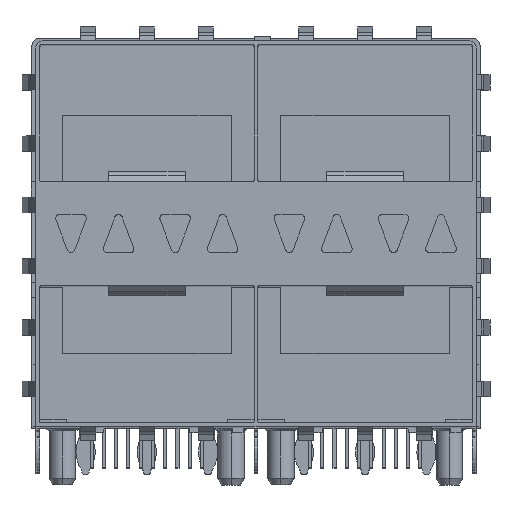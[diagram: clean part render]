
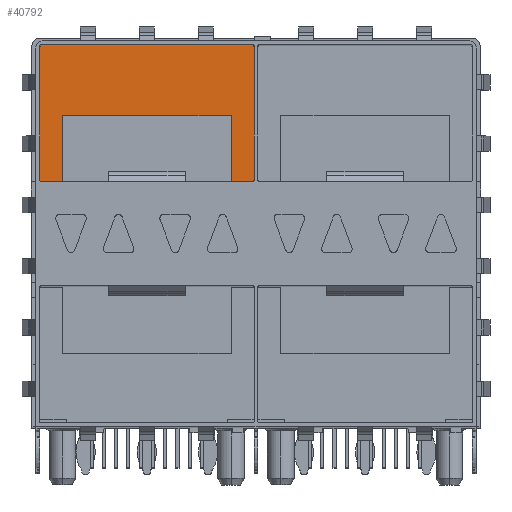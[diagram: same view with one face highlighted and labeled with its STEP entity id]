
A CAD part, top view. The second image highlights one B-rep face of the part: STEP entity #40792.
In plain terms, the highlighted planar face has unit normal (0, 0, 1).
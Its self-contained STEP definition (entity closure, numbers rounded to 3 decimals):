
#115 = CARTESIAN_POINT ( 'NONE',  ( -0.225, 24.95, -48.55 ) ) ;
#374 = AXIS2_PLACEMENT_3D ( 'NONE', #41172, #11972, #5777 ) ;
#1223 = CARTESIAN_POINT ( 'NONE',  ( -1.625, 20.35, -48.55 ) ) ;
#2765 = AXIS2_PLACEMENT_3D ( 'NONE', #10588, #26622, #20474 ) ;
#3212 = ORIENTED_EDGE ( 'NONE', *, *, #38839, .T. ) ;
#3539 = AXIS2_PLACEMENT_3D ( 'NONE', #29198, #32173, #6663 ) ;
#4498 = CARTESIAN_POINT ( 'NONE',  ( -0.225, 24.95, -48.55 ) ) ;
#5258 = CARTESIAN_POINT ( 'NONE',  ( -0.225, 16., -48.55 ) ) ;
#5658 = CARTESIAN_POINT ( 'NONE',  ( -12.625, 16., -48.55 ) ) ;
#5702 = CARTESIAN_POINT ( 'NONE',  ( -14.025, 24.85, -48.55 ) ) ;
#5777 = DIRECTION ( 'NONE',  ( -1., 0., 0. ) ) ;
#6419 = LINE ( 'NONE', #4498, #24650 ) ;
#6663 = DIRECTION ( 'NONE',  ( -1., 0., 0. ) ) ;
#6952 = LINE ( 'NONE', #5658, #11923 ) ;
#7019 = EDGE_CURVE ( 'NONE', #10995, #41357, #20001, .T. ) ;
#7454 = EDGE_CURVE ( 'NONE', #11150, #35903, #36485, .T. ) ;
#7461 = DIRECTION ( 'NONE',  ( 1., 0., 0. ) ) ;
#7635 = VERTEX_POINT ( 'NONE', #34529 ) ;
#7976 = LINE ( 'NONE', #13035, #17072 ) ;
#10338 = DIRECTION ( 'NONE',  ( 0., -1., 0. ) ) ;
#10588 = CARTESIAN_POINT ( 'NONE',  ( -14.375, 25.2, -48.55 ) ) ;
#10771 = ORIENTED_EDGE ( 'NONE', *, *, #7019, .T. ) ;
#10995 = VERTEX_POINT ( 'NONE', #25448 ) ;
#11150 = VERTEX_POINT ( 'NONE', #36994 ) ;
#11578 = FACE_OUTER_BOUND ( 'NONE', #27976, .T. ) ;
#11807 = ORIENTED_EDGE ( 'NONE', *, *, #27276, .T. ) ;
#11860 = EDGE_CURVE ( 'NONE', #32904, #14778, #21702, .T. ) ;
#11923 = VECTOR ( 'NONE', #28333, 1000. ) ;
#11972 = DIRECTION ( 'NONE',  ( 0., 0., 1. ) ) ;
#12399 = EDGE_CURVE ( 'NONE', #35903, #32904, #7976, .T. ) ;
#13035 = CARTESIAN_POINT ( 'NONE',  ( -1.625, 16., -48.55 ) ) ;
#14778 = VERTEX_POINT ( 'NONE', #18092 ) ;
#14999 = LINE ( 'NONE', #36609, #37904 ) ;
#15048 = VERTEX_POINT ( 'NONE', #30991 ) ;
#15125 = VECTOR ( 'NONE', #40067, 1000. ) ;
#15161 = DIRECTION ( 'NONE',  ( -1., 0., 0. ) ) ;
#15274 = DIRECTION ( 'NONE',  ( 0., 0., 1. ) ) ;
#16243 = VERTEX_POINT ( 'NONE', #18076 ) ;
#17072 = VECTOR ( 'NONE', #32634, 1000. ) ;
#17291 = CARTESIAN_POINT ( 'NONE',  ( -0.125, 16.1, -48.55 ) ) ;
#18010 = VECTOR ( 'NONE', #40893, 1000. ) ;
#18076 = CARTESIAN_POINT ( 'NONE',  ( -14.125, 24.85, -48.55 ) ) ;
#18092 = CARTESIAN_POINT ( 'NONE',  ( -0.125, 16.1, -48.55 ) ) ;
#18487 = ORIENTED_EDGE ( 'NONE', *, *, #37760, .T. ) ;
#18920 = ORIENTED_EDGE ( 'NONE', *, *, #39039, .T. ) ;
#19054 = ORIENTED_EDGE ( 'NONE', *, *, #12399, .T. ) ;
#20001 = CIRCLE ( 'NONE', #374, 0.1 ) ;
#20022 = CARTESIAN_POINT ( 'NONE',  ( -1.625, 16., -48.55 ) ) ;
#20453 = ORIENTED_EDGE ( 'NONE', *, *, #7454, .T. ) ;
#20474 = DIRECTION ( 'NONE',  ( -1., 0., 0. ) ) ;
#21688 = VERTEX_POINT ( 'NONE', #29223 ) ;
#21702 = CIRCLE ( 'NONE', #40268, 0.1 ) ;
#21950 = ORIENTED_EDGE ( 'NONE', *, *, #38435, .T. ) ;
#21988 = DIRECTION ( 'NONE',  ( 0., 0., 1. ) ) ;
#23542 = ORIENTED_EDGE ( 'NONE', *, *, #11860, .T. ) ;
#24480 = VERTEX_POINT ( 'NONE', #29433 ) ;
#24650 = VECTOR ( 'NONE', #40291, 1000. ) ;
#24710 = ORIENTED_EDGE ( 'NONE', *, *, #26195, .T. ) ;
#25448 = CARTESIAN_POINT ( 'NONE',  ( -14.125, 16.1, -48.55 ) ) ;
#26195 = EDGE_CURVE ( 'NONE', #14778, #7635, #32447, .T. ) ;
#26622 = DIRECTION ( 'NONE',  ( 0., 0., -1. ) ) ;
#27276 = EDGE_CURVE ( 'NONE', #15048, #16243, #33823, .T. ) ;
#27976 = EDGE_LOOP ( 'NONE', ( #18920, #36624, #11807, #21950, #10771, #34548, #3212, #18487, #20453, #19054, #23542, #24710 ) ) ;
#28176 = CIRCLE ( 'NONE', #3539, 0.1 ) ;
#28333 = DIRECTION ( 'NONE',  ( 1., 0., 0. ) ) ;
#28339 = VECTOR ( 'NONE', #40000, 1000. ) ;
#29198 = CARTESIAN_POINT ( 'NONE',  ( -0.225, 24.85, -48.55 ) ) ;
#29223 = CARTESIAN_POINT ( 'NONE',  ( -12.625, 20.35, -48.55 ) ) ;
#29433 = CARTESIAN_POINT ( 'NONE',  ( -12.625, 16., -48.55 ) ) ;
#30042 = PLANE ( 'NONE',  #2765 ) ;
#30991 = CARTESIAN_POINT ( 'NONE',  ( -14.025, 24.95, -48.55 ) ) ;
#31476 = CARTESIAN_POINT ( 'NONE',  ( -0.225, 16.1, -48.55 ) ) ;
#32173 = DIRECTION ( 'NONE',  ( 0., 0., 1. ) ) ;
#32447 = LINE ( 'NONE', #17291, #15125 ) ;
#32634 = DIRECTION ( 'NONE',  ( 1., 0., 0. ) ) ;
#32686 = EDGE_CURVE ( 'NONE', #41357, #24480, #6952, .T. ) ;
#32904 = VERTEX_POINT ( 'NONE', #5258 ) ;
#33823 = CIRCLE ( 'NONE', #39913, 0.1 ) ;
#33905 = VECTOR ( 'NONE', #7461, 1000. ) ;
#34061 = CARTESIAN_POINT ( 'NONE',  ( -12.625, 20.35, -48.55 ) ) ;
#34529 = CARTESIAN_POINT ( 'NONE',  ( -0.125, 24.85, -48.55 ) ) ;
#34548 = ORIENTED_EDGE ( 'NONE', *, *, #32686, .T. ) ;
#35336 = LINE ( 'NONE', #34061, #18010 ) ;
#35903 = VERTEX_POINT ( 'NONE', #20022 ) ;
#36440 = LINE ( 'NONE', #40135, #33905 ) ;
#36485 = LINE ( 'NONE', #1223, #28339 ) ;
#36536 = CARTESIAN_POINT ( 'NONE',  ( -14.025, 16., -48.55 ) ) ;
#36609 = CARTESIAN_POINT ( 'NONE',  ( -14.125, 24.85, -48.55 ) ) ;
#36624 = ORIENTED_EDGE ( 'NONE', *, *, #41940, .T. ) ;
#36994 = CARTESIAN_POINT ( 'NONE',  ( -1.625, 20.35, -48.55 ) ) ;
#37637 = VERTEX_POINT ( 'NONE', #115 ) ;
#37760 = EDGE_CURVE ( 'NONE', #21688, #11150, #36440, .T. ) ;
#37904 = VECTOR ( 'NONE', #10338, 1000. ) ;
#38050 = DIRECTION ( 'NONE',  ( -1., 0., 0. ) ) ;
#38435 = EDGE_CURVE ( 'NONE', #16243, #10995, #14999, .T. ) ;
#38839 = EDGE_CURVE ( 'NONE', #24480, #21688, #35336, .T. ) ;
#39039 = EDGE_CURVE ( 'NONE', #7635, #37637, #28176, .T. ) ;
#39913 = AXIS2_PLACEMENT_3D ( 'NONE', #5702, #21988, #15161 ) ;
#40000 = DIRECTION ( 'NONE',  ( 0., -1., 0. ) ) ;
#40067 = DIRECTION ( 'NONE',  ( 0., 1., 0. ) ) ;
#40135 = CARTESIAN_POINT ( 'NONE',  ( -12.625, 20.35, -48.55 ) ) ;
#40268 = AXIS2_PLACEMENT_3D ( 'NONE', #31476, #15274, #38050 ) ;
#40291 = DIRECTION ( 'NONE',  ( -1., 0., 0. ) ) ;
#40792 = ADVANCED_FACE ( 'NONE', ( #11578 ), #30042, .F. ) ;
#40893 = DIRECTION ( 'NONE',  ( 0., 1., 0. ) ) ;
#41172 = CARTESIAN_POINT ( 'NONE',  ( -14.025, 16.1, -48.55 ) ) ;
#41357 = VERTEX_POINT ( 'NONE', #36536 ) ;
#41940 = EDGE_CURVE ( 'NONE', #37637, #15048, #6419, .T. ) ;
